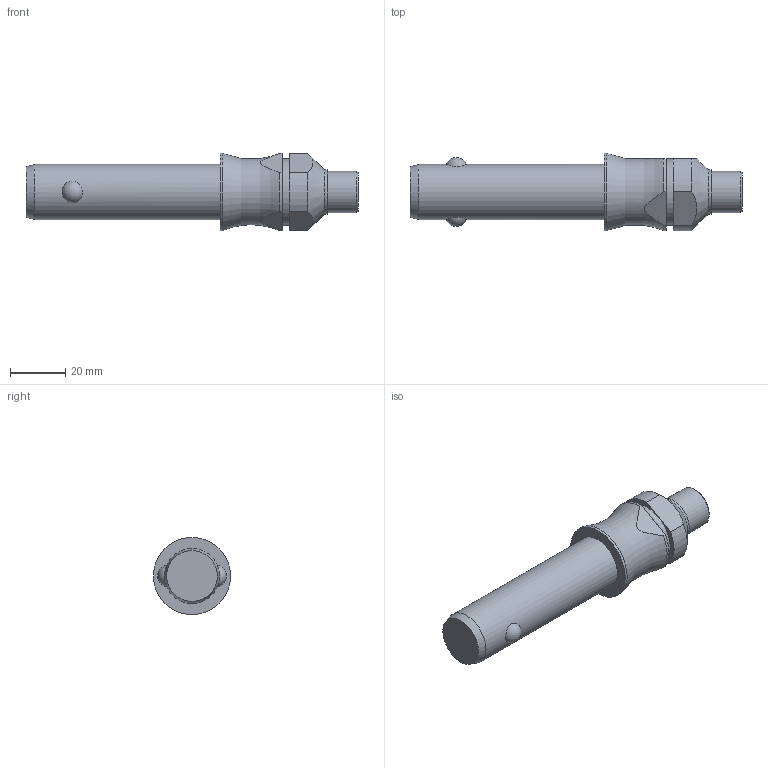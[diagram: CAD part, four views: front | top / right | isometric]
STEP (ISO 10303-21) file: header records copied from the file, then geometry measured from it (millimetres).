
FILE_DESCRIPTION( ( 'STEP AP203' ), '1' );
FILE_NAME( 'C:/Temp/Ganter_Step_05_03_2020/data/3_1/gn113_3/Stainless Steel-Ball lock pin GN 113.3-20-50 (deactivated).stp', '2020-03-12T08:19:01', ( 'License CC BY-ND 4.0' ), ( 'CADENAS' ), ' ', 'PARTsolutions', ' ' );
FILE_SCHEMA( ( 'CONFIG_CONTROL_DESIGN' ) );
Length unit declared in the file: millimetre
Products named in the file (1): _Stainless Steel-Ball lock pin GN 113.3-20-50 (deactivated)
Bounding box: 120.6 x 28 x 28 mm (x, y, z)
Volume: 42949.2 mm3; surface area: 9193.7 mm2
Topology: 1 solids, 1 shells, 29 faces, 62 edges, 40 vertices
Faces by surface type: plane 11, cylinder 11, cone 4, sphere 2, torus 1
Full cylindrical faces by diameter (mm): 15 x1, 16 x1, 20 x1, 24 x1, 28 x1
Entity records: 1010 total; most frequent: CARTESIAN_POINT 380, DIRECTION 126, ORIENTED_EDGE 100, AXIS2_PLACEMENT_3D 54, EDGE_CURVE 50, EDGE_LOOP 44, VERTEX_POINT 38, FACE_OUTER_BOUND 35
